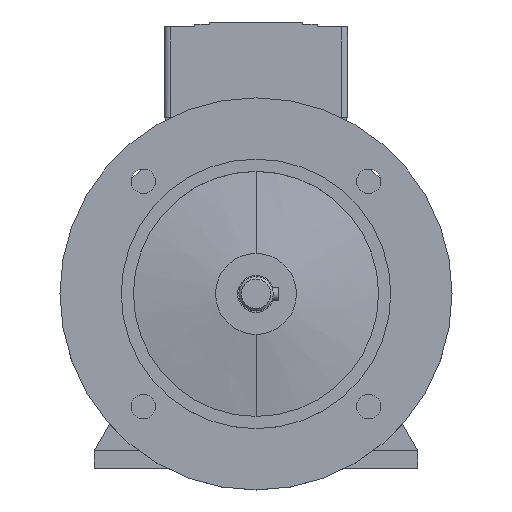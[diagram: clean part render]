
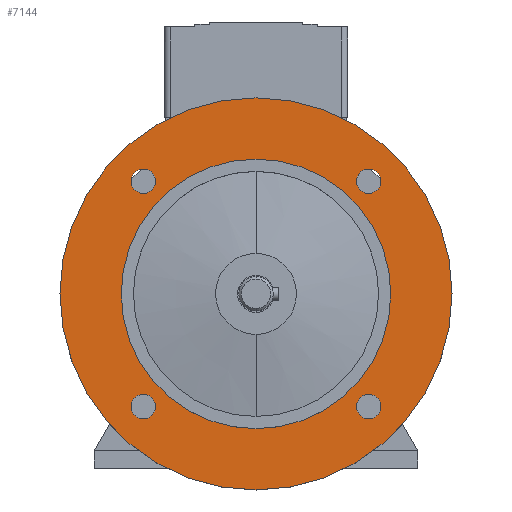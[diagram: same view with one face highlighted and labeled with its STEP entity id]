
A CAD part, top view. The second image highlights one B-rep face of the part: STEP entity #7144.
In plain terms, the highlighted planar face has unit normal (0, 0, 1).
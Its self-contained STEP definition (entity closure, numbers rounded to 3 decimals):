
#2030=CARTESIAN_POINT('',(-45.962,45.962,23.));
#2031=DIRECTION('',(0.,0.,-1.));
#2032=DIRECTION('',(-1.,0.,0.));
#2033=AXIS2_PLACEMENT_3D('',#2030,#2031,#2032);
#2035=CARTESIAN_POINT('',(-45.962,45.962,23.));
#2036=DIRECTION('',(0.,0.,-1.));
#2037=DIRECTION('',(1.,0.,0.));
#2038=AXIS2_PLACEMENT_3D('',#2035,#2036,#2037);
#2040=CARTESIAN_POINT('',(-45.962,-45.962,23.));
#2041=DIRECTION('',(0.,0.,-1.));
#2042=DIRECTION('',(-1.,0.,0.));
#2043=AXIS2_PLACEMENT_3D('',#2040,#2041,#2042);
#2045=CARTESIAN_POINT('',(-45.962,-45.962,23.));
#2046=DIRECTION('',(0.,0.,-1.));
#2047=DIRECTION('',(1.,0.,0.));
#2048=AXIS2_PLACEMENT_3D('',#2045,#2046,#2047);
#2050=CARTESIAN_POINT('',(45.962,-45.962,23.));
#2051=DIRECTION('',(0.,0.,-1.));
#2052=DIRECTION('',(-1.,0.,0.));
#2053=AXIS2_PLACEMENT_3D('',#2050,#2051,#2052);
#2055=CARTESIAN_POINT('',(45.962,-45.962,23.));
#2056=DIRECTION('',(0.,0.,-1.));
#2057=DIRECTION('',(1.,0.,0.));
#2058=AXIS2_PLACEMENT_3D('',#2055,#2056,#2057);
#2060=CARTESIAN_POINT('',(0.,0.,23.));
#2061=DIRECTION('',(0.,0.,1.));
#2062=DIRECTION('',(0.,1.,0.));
#2063=AXIS2_PLACEMENT_3D('',#2060,#2061,#2062);
#2065=CARTESIAN_POINT('',(0.,0.,23.));
#2066=DIRECTION('',(0.,0.,-1.));
#2067=DIRECTION('',(0.,1.,0.));
#2068=AXIS2_PLACEMENT_3D('',#2065,#2066,#2067);
#2070=CARTESIAN_POINT('',(45.962,45.962,23.));
#2071=DIRECTION('',(0.,0.,-1.));
#2072=DIRECTION('',(-1.,0.,0.));
#2073=AXIS2_PLACEMENT_3D('',#2070,#2071,#2072);
#2075=CARTESIAN_POINT('',(45.962,45.962,23.));
#2076=DIRECTION('',(0.,0.,-1.));
#2077=DIRECTION('',(1.,0.,0.));
#2078=AXIS2_PLACEMENT_3D('',#2075,#2076,#2077);
#2100=CARTESIAN_POINT('',(0.,0.,23.));
#2101=DIRECTION('',(0.,0.,-1.));
#2102=DIRECTION('',(0.,1.,0.));
#2103=AXIS2_PLACEMENT_3D('',#2100,#2101,#2102);
#2113=CARTESIAN_POINT('',(0.,0.,23.));
#2114=DIRECTION('',(0.,0.,1.));
#2115=DIRECTION('',(0.,1.,0.));
#2116=AXIS2_PLACEMENT_3D('',#2113,#2114,#2115);
#3344=CARTESIAN_POINT('',(0.,80.,23.));
#3346=VERTEX_POINT('',#3344);
#3347=CARTESIAN_POINT('',(0.,55.,23.));
#3349=VERTEX_POINT('',#3347);
#3352=CARTESIAN_POINT('',(0.,-80.,23.));
#3354=VERTEX_POINT('',#3352);
#3355=CARTESIAN_POINT('',(0.,-55.,23.));
#3357=VERTEX_POINT('',#3355);
#3363=CARTESIAN_POINT('',(40.962,45.962,23.));
#3364=CARTESIAN_POINT('',(50.962,45.962,23.));
#3365=VERTEX_POINT('',#3363);
#3366=VERTEX_POINT('',#3364);
#3371=CARTESIAN_POINT('',(40.962,-45.962,23.));
#3372=CARTESIAN_POINT('',(50.962,-45.962,23.));
#3373=VERTEX_POINT('',#3371);
#3374=VERTEX_POINT('',#3372);
#3379=CARTESIAN_POINT('',(-50.962,-45.962,23.));
#3380=CARTESIAN_POINT('',(-40.962,-45.962,23.));
#3381=VERTEX_POINT('',#3379);
#3382=VERTEX_POINT('',#3380);
#3387=CARTESIAN_POINT('',(-50.962,45.962,23.));
#3388=CARTESIAN_POINT('',(-40.962,45.962,23.));
#3389=VERTEX_POINT('',#3387);
#3390=VERTEX_POINT('',#3388);
#7104=CARTESIAN_POINT('',(0.,0.,23.));
#7105=DIRECTION('',(0.,0.,-1.));
#7106=DIRECTION('',(0.,-1.,0.));
#7107=AXIS2_PLACEMENT_3D('',#7104,#7105,#7106);
#7108=PLANE('',#7107);
#7110=ORIENTED_EDGE('',*,*,#7109,.F.);
#7112=ORIENTED_EDGE('',*,*,#7111,.T.);
#7113=EDGE_LOOP('',(#7110,#7112));
#7114=FACE_OUTER_BOUND('',#7113,.F.);
#7115=ORIENTED_EDGE('',*,*,#7094,.F.);
#7117=ORIENTED_EDGE('',*,*,#7116,.F.);
#7118=EDGE_LOOP('',(#7115,#7117));
#7119=FACE_BOUND('',#7118,.F.);
#7121=ORIENTED_EDGE('',*,*,#7120,.F.);
#7123=ORIENTED_EDGE('',*,*,#7122,.F.);
#7124=EDGE_LOOP('',(#7121,#7123));
#7125=FACE_BOUND('',#7124,.F.);
#7127=ORIENTED_EDGE('',*,*,#7126,.F.);
#7129=ORIENTED_EDGE('',*,*,#7128,.F.);
#7130=EDGE_LOOP('',(#7127,#7129));
#7131=FACE_BOUND('',#7130,.F.);
#7133=ORIENTED_EDGE('',*,*,#7132,.F.);
#7135=ORIENTED_EDGE('',*,*,#7134,.T.);
#7136=EDGE_LOOP('',(#7133,#7135));
#7137=FACE_BOUND('',#7136,.F.);
#7139=ORIENTED_EDGE('',*,*,#7138,.F.);
#7141=ORIENTED_EDGE('',*,*,#7140,.F.);
#7142=EDGE_LOOP('',(#7139,#7141));
#7143=FACE_BOUND('',#7142,.F.);
#7144=ADVANCED_FACE('',(#7114,#7119,#7125,#7131,#7137,#7143),#7108,.F.);
#2034=CIRCLE('',#2033,5.);
#2039=CIRCLE('',#2038,5.);
#2044=CIRCLE('',#2043,5.);
#2049=CIRCLE('',#2048,5.);
#2054=CIRCLE('',#2053,5.);
#2059=CIRCLE('',#2058,5.);
#2064=CIRCLE('',#2063,80.);
#2069=CIRCLE('',#2068,80.);
#2074=CIRCLE('',#2073,5.);
#2079=CIRCLE('',#2078,5.);
#2104=CIRCLE('',#2103,55.);
#2117=CIRCLE('',#2116,55.);
#7094=EDGE_CURVE('',#3389,#3390,#2034,.T.);
#7109=EDGE_CURVE('',#3346,#3354,#2064,.T.);
#7111=EDGE_CURVE('',#3346,#3354,#2069,.T.);
#7116=EDGE_CURVE('',#3390,#3389,#2039,.T.);
#7120=EDGE_CURVE('',#3381,#3382,#2044,.T.);
#7122=EDGE_CURVE('',#3382,#3381,#2049,.T.);
#7126=EDGE_CURVE('',#3373,#3374,#2054,.T.);
#7128=EDGE_CURVE('',#3374,#3373,#2059,.T.);
#7132=EDGE_CURVE('',#3349,#3357,#2104,.T.);
#7134=EDGE_CURVE('',#3349,#3357,#2117,.T.);
#7138=EDGE_CURVE('',#3365,#3366,#2074,.T.);
#7140=EDGE_CURVE('',#3366,#3365,#2079,.T.);
